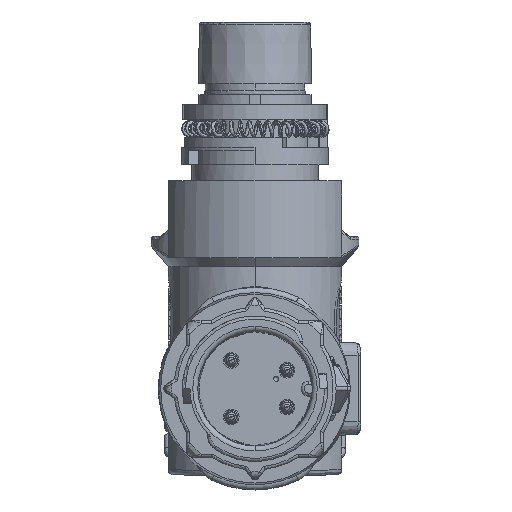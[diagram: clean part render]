
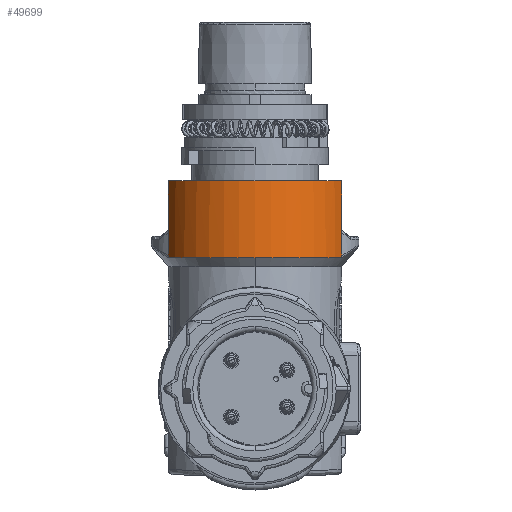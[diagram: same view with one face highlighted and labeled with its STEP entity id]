
A CAD part, left-side view. The second image highlights one B-rep face of the part: STEP entity #49699.
In plain terms, the highlighted cylindrical face has radius 9.35 mm (diameter 18.7 mm), a partial arc.
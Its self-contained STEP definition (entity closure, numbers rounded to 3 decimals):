
#14908=CARTESIAN_POINT('',(128.978,8.681,13.));
#14979=CARTESIAN_POINT('',(128.781,8.6,15.5));
#14986=CARTESIAN_POINT('',(128.781,8.6,13.148));
#15042=CARTESIAN_POINT('',(128.978,-8.681,
13.));
#15069=CARTESIAN_POINT('',(128.978,-8.681,
13.));
#15070=CARTESIAN_POINT('',(128.965,-8.676,
13.));
#15071=CARTESIAN_POINT('',(128.94,-8.666,
13.001));
#15072=CARTESIAN_POINT('',(128.907,-8.653,
13.006));
#15073=CARTESIAN_POINT('',(128.878,-8.641,
13.014));
#15074=CARTESIAN_POINT('',(128.854,-8.631,
13.024));
#15075=CARTESIAN_POINT('',(128.834,-8.622,
13.037));
#15076=CARTESIAN_POINT('',(128.818,-8.616,
13.05));
#15077=CARTESIAN_POINT('',(128.805,-8.61,
13.066));
#15078=CARTESIAN_POINT('',(128.794,-8.606,
13.083));
#15079=CARTESIAN_POINT('',(128.787,-8.603,
13.102));
#15080=CARTESIAN_POINT('',(128.782,-8.6,
13.124));
#15081=CARTESIAN_POINT('',(128.781,-8.6,
13.14));
#15082=CARTESIAN_POINT('',(128.781,-8.6,
13.148));
#15125=CARTESIAN_POINT('',(128.781,-8.6,
13.148));
#15132=CARTESIAN_POINT('',(128.781,-8.6,
15.5));
#15286=DIRECTION('',(0.,0.,1.));
#15287=VECTOR('',#15286,5.1);
#15288=CARTESIAN_POINT('',(128.781,-8.6,
15.5));
#15289=LINE('',#15288,#15287);
#15290=DIRECTION('',(0.,0.,1.));
#15291=VECTOR('',#15290,2.352);
#15292=CARTESIAN_POINT('',(128.781,-8.6,
13.148));
#15293=LINE('',#15292,#15291);
#15294=CARTESIAN_POINT('',(132.45,0.,13.));
#15295=DIRECTION('',(0.,0.,-1.));
#15296=DIRECTION('',(-0.371,-0.928,0.));
#15297=AXIS2_PLACEMENT_3D('',#15294,#15295,#15296);
#15299=CARTESIAN_POINT('',(132.45,0.,13.));
#15300=DIRECTION('',(0.,0.,-1.));
#15301=DIRECTION('',(-1.,0.,0.));
#15302=AXIS2_PLACEMENT_3D('',#15299,#15300,#15301);
#15304=DIRECTION('',(0.,0.,1.));
#15305=VECTOR('',#15304,2.352);
#15306=CARTESIAN_POINT('',(128.781,8.6,13.148));
#15307=LINE('',#15306,#15305);
#15308=CARTESIAN_POINT('',(132.45,0.,20.6));
#15309=DIRECTION('',(0.,0.,1.));
#15310=DIRECTION('',(-0.392,0.92,0.));
#15311=AXIS2_PLACEMENT_3D('',#15308,#15309,#15310);
#15318=CARTESIAN_POINT('',(128.781,8.6,13.148));
#15319=CARTESIAN_POINT('',(128.781,8.6,13.14));
#15320=CARTESIAN_POINT('',(128.782,8.6,13.124));
#15321=CARTESIAN_POINT('',(128.787,8.603,13.102));
#15322=CARTESIAN_POINT('',(128.794,8.606,13.083));
#15323=CARTESIAN_POINT('',(128.805,8.61,13.066));
#15324=CARTESIAN_POINT('',(128.818,8.616,13.05));
#15325=CARTESIAN_POINT('',(128.834,8.622,13.036));
#15326=CARTESIAN_POINT('',(128.854,8.631,13.024));
#15327=CARTESIAN_POINT('',(128.879,8.641,13.014));
#15328=CARTESIAN_POINT('',(128.907,8.653,13.006));
#15329=CARTESIAN_POINT('',(128.94,8.666,13.001));
#15330=CARTESIAN_POINT('',(128.965,8.676,13.));
#15331=CARTESIAN_POINT('',(128.978,8.681,13.));
#15333=DIRECTION('',(0.,0.,-1.));
#15334=VECTOR('',#15333,5.1);
#15335=CARTESIAN_POINT('',(128.781,8.6,20.6));
#15336=LINE('',#15335,#15334);
#31924=CARTESIAN_POINT('',(123.1,0.,13.));
#31926=VERTEX_POINT('',#31924);
#32018=CARTESIAN_POINT('',(128.781,-8.6,20.6));
#32020=VERTEX_POINT('',#32018);
#32022=CARTESIAN_POINT('',(128.781,8.6,20.6));
#32024=VERTEX_POINT('',#32022);
#32554=VERTEX_POINT('',#15132);
#32557=VERTEX_POINT('',#15125);
#32559=VERTEX_POINT('',#15042);
#32566=VERTEX_POINT('',#14908);
#32567=VERTEX_POINT('',#14986);
#32568=VERTEX_POINT('',#14979);
#49680=CARTESIAN_POINT('',(132.45,0.,-10.27));
#49681=DIRECTION('',(0.,0.,1.));
#49682=DIRECTION('',(-1.,0.,0.));
#49683=AXIS2_PLACEMENT_3D('',#49680,#49681,#49682);
#49684=CYLINDRICAL_SURFACE('',#49683,9.35);
#49685=ORIENTED_EDGE('',*,*,#49442,.F.);
#49686=ORIENTED_EDGE('',*,*,#49426,.F.);
#49687=ORIENTED_EDGE('',*,*,#49375,.T.);
#49688=ORIENTED_EDGE('',*,*,#49251,.T.);
#49690=ORIENTED_EDGE('',*,*,#49689,.F.);
#49691=ORIENTED_EDGE('',*,*,#49332,.T.);
#49693=ORIENTED_EDGE('',*,*,#49692,.F.);
#49695=ORIENTED_EDGE('',*,*,#49694,.T.);
#49696=ORIENTED_EDGE('',*,*,#49673,.F.);
#49697=EDGE_LOOP('',(#49685,#49686,#49687,#49688,#49690,#49691,#49693,#49695,
#49696));
#49698=FACE_OUTER_BOUND('',#49697,.F.);
#49699=ADVANCED_FACE('',(#49698),#49684,.T.);
#15083=B_SPLINE_CURVE_WITH_KNOTS('',3,(#15069,#15070,#15071,#15072,#15073,
#15074,#15075,#15076,#15077,#15078,#15079,#15080,#15081,#15082),.UNSPECIFIED.,
.F.,.F.,(4,1,1,1,1,1,1,1,1,1,1,4),(0.,0.091,0.182,
0.273,0.364,0.455,0.545,
0.636,0.727,0.818,0.909,1.),
.UNSPECIFIED.);
#15298=CIRCLE('',#15297,9.35);
#15303=CIRCLE('',#15302,9.35);
#15312=CIRCLE('',#15311,9.35);
#15332=B_SPLINE_CURVE_WITH_KNOTS('',3,(#15318,#15319,#15320,#15321,#15322,
#15323,#15324,#15325,#15326,#15327,#15328,#15329,#15330,#15331),.UNSPECIFIED.,
.F.,.F.,(4,1,1,1,1,1,1,1,1,1,1,4),(0.,0.091,0.182,
0.273,0.364,0.455,0.545,
0.636,0.727,0.818,0.909,1.),
.UNSPECIFIED.);
#49251=EDGE_CURVE('',#31926,#32566,#15303,.T.);
#49332=EDGE_CURVE('',#32567,#32568,#15307,.T.);
#49375=EDGE_CURVE('',#32559,#31926,#15298,.T.);
#49426=EDGE_CURVE('',#32559,#32557,#15083,.T.);
#49442=EDGE_CURVE('',#32557,#32554,#15293,.T.);
#49673=EDGE_CURVE('',#32554,#32020,#15289,.T.);
#49689=EDGE_CURVE('',#32567,#32566,#15332,.T.);
#49692=EDGE_CURVE('',#32024,#32568,#15336,.T.);
#49694=EDGE_CURVE('',#32024,#32020,#15312,.T.);
